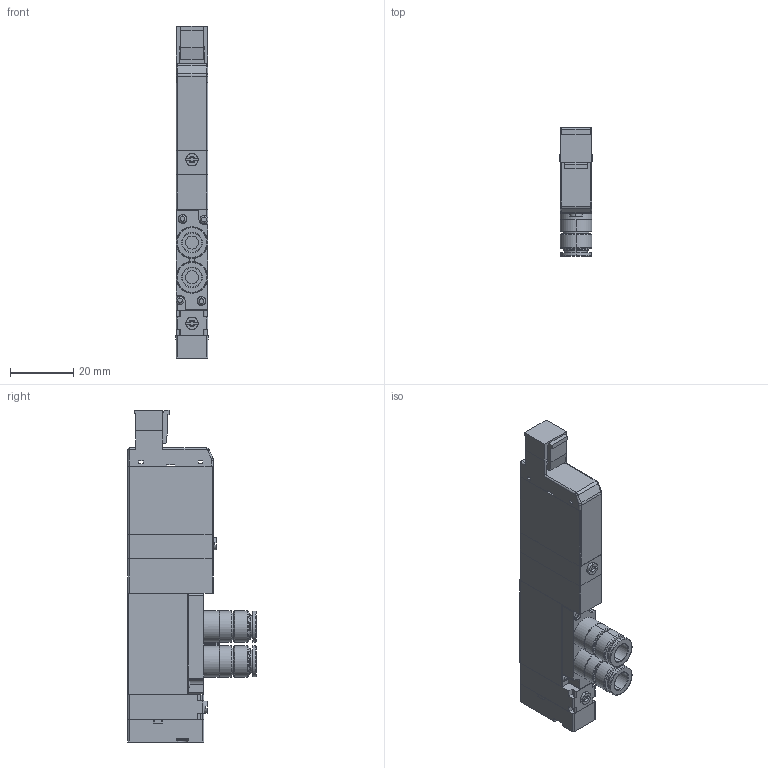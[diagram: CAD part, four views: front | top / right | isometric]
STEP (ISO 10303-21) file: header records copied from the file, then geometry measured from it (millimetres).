
FILE_DESCRIPTION( (''), '2;1');
FILE_NAME ('CVICAD02.13484.F10T2-FJ-PS_5953.stp','2020-09-01T14:11:06',(''),(''),'spGate 12.6.6','','');
FILE_SCHEMA (('AUTOMOTIVE_DESIGN'));
Length unit declared in the file: millimetre
Products named in the file (8): Assembly; F10_Adptor; F_3PortBody; F10_Cap; F10T_Body; F_Connector-PS; F10_SwitchBlock; F10_Port-FJ
Assembly tree (7 placements, depth 2):
  Assembly
    F10_Adptor
    F_3PortBody
    F10_Cap
    F10T_Body
    F_Connector-PS
    F10_SwitchBlock
    F10_Port-FJ
Bounding box: 10.2 x 40.5 x 105 mm (x, y, z)
Volume: 26206.3 mm3; surface area: 13043.5 mm2
Topology: 7 solids, 7 shells, 375 faces, 922 edges, 588 vertices
Faces by surface type: plane 184, cylinder 125, bspline 64, sphere 2
Entity records: 19390 total; most frequent: CARTESIAN_POINT 3015, ORIENTED_EDGE 1840, DIRECTION 1802, COLOUR_RGB 1302, PRESENTATION_STYLE_ASSIGNMENT 1302, STYLED_ITEM 1302, EDGE_CURVE 920, DRAUGHTING_PRE_DEFINED_CURVE_FONT 920
